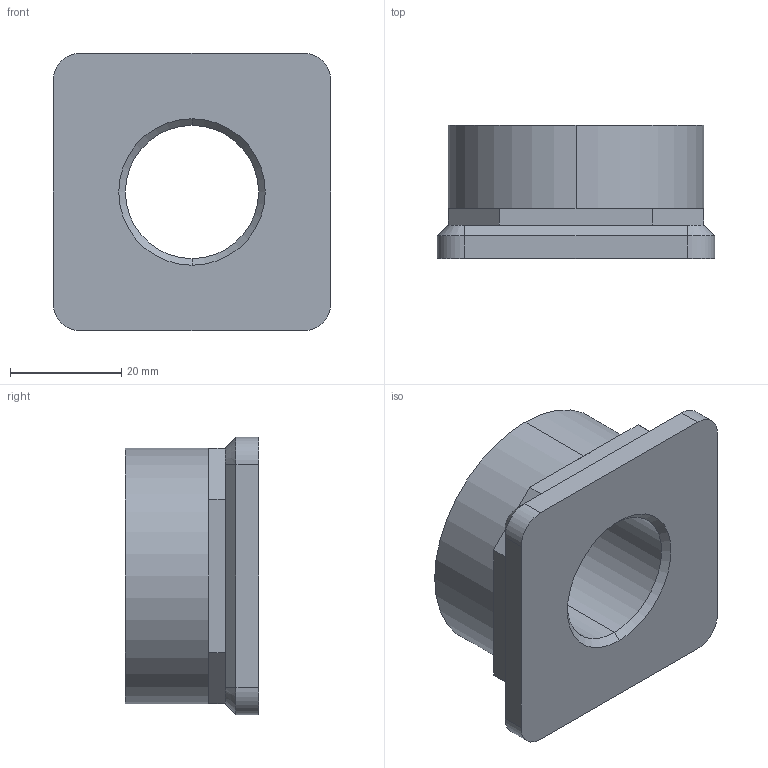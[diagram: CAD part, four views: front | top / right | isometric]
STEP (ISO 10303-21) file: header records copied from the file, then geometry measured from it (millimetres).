
FILE_DESCRIPTION (( 'STEP AP203' ), '1' );
FILE_NAME ('34670.W0052.step', '2017-06-26T08:14:16', ( 'User' ), ( '' ), 'SwSTEP 2.0', 'SolidWorks 2009', '' );
FILE_SCHEMA (( 'CONFIG_CONTROL_DESIGN' ));
Length unit declared in the file: millimetre
Products named in the file (1): 34670.W0052
Bounding box: 50 x 24 x 50 mm (x, y, z)
Volume: 34325 mm3; surface area: 9343 mm2
Topology: 1 solids, 1 shells, 39 faces, 90 edges, 54 vertices
Faces by surface type: plane 23, cone 8, cylinder 8
Entity records: 1167 total; most frequent: DIRECTION 196, CARTESIAN_POINT 184, ORIENTED_EDGE 180, EDGE_CURVE 90, AXIS2_PLACEMENT_3D 66, VECTOR 64, LINE 64, VERTEX_POINT 54
